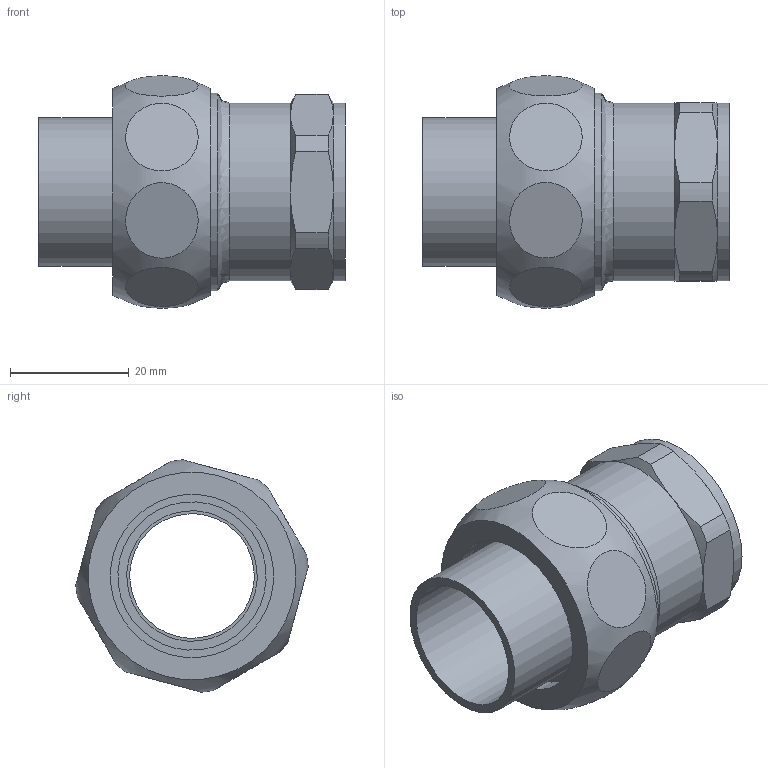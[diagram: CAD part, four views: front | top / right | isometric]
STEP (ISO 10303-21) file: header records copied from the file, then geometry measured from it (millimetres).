
FILE_DESCRIPTION((''),'2;1');
FILE_NAME('\\lg50001\SANHA_Legnica\Engineering\Public\RYSUNKI\SANHA POLSKA\4340\inventor\14340_22-34(1).stp','2014-08-25T14:23:30',('gomulka'),(''),'Autodesk Inventor 2009','Autodesk Inventor 2009','');
FILE_SCHEMA(('AUTOMOTIVE_DESIGN { 1 0 10303 214 1 1 1 1 }'));
Length unit declared in the file: millimetre
Products named in the file (4): 14340_22-34(1); 14380_34-1(2); 14381_22-1(3); 14374_1(1)
Assembly tree (3 placements, depth 2):
  14340_22-34(1)
    14380_34-1(2)
    14381_22-1(3)
    14374_1(1)
Bounding box: 51.66 x 39.15 x 39.15 mm (x, y, z)
Volume: 20137.1 mm3; surface area: 14336.8 mm2
Topology: 3 solids, 3 shells, 61 faces, 118 edges, 74 vertices
Faces by surface type: plane 24, cylinder 18, cone 16, bspline 2, torus 1
Full cylindrical faces by diameter (mm): 21 x1, 22 x2, 24.117 x1, 25 x1, 27.5 x2, 29.5 x1, 30 x2, 30.291 x1, 33.249 x1
Entity records: 2800 total; most frequent: CARTESIAN_POINT 1560, DIRECTION 248, ORIENTED_EDGE 192, AXIS2_PLACEMENT_3D 118, EDGE_LOOP 98, EDGE_CURVE 96, VERTEX_POINT 72, FACE_OUTER_BOUND 61
